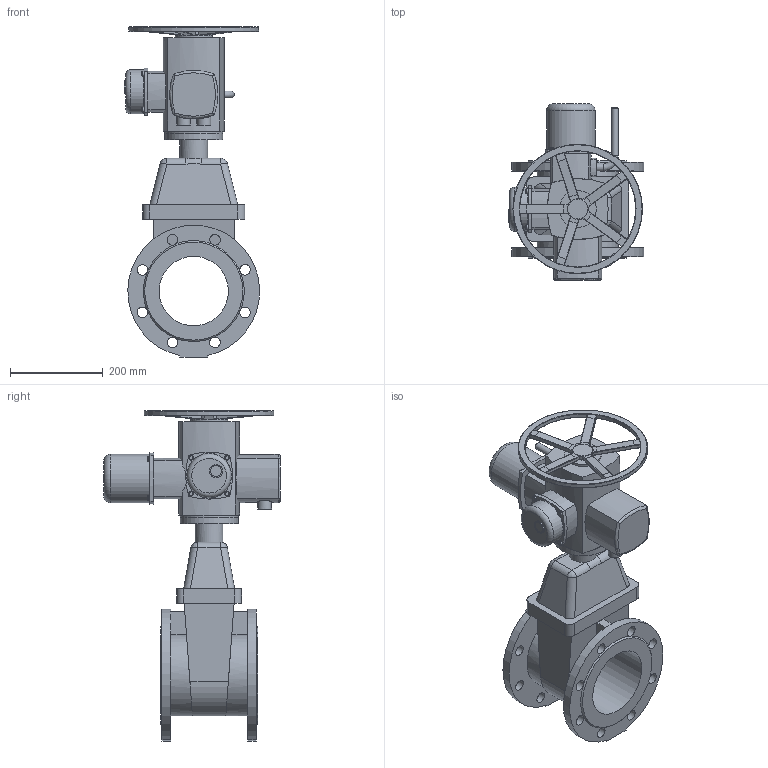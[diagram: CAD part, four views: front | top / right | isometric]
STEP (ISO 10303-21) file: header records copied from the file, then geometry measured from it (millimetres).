
FILE_DESCRIPTION(('STEP AP203'), '1');
FILE_NAME('青溻桄赅 47GVA DN150 PN10_PN16+MT903.Z10', '', ('UNSPECIFIED'), ('UNSPECIFIED'), 'ASCON STEP Converter 1.6', 'ASCON Math Kernel', '');
FILE_SCHEMA(('CONFIG_CONTROL_DESIGN'));
Length unit declared in the file: millimetre
Bounding box: 292.47 x 382 x 713.5 mm (x, y, z)
Volume: 13623809.2 mm3; surface area: 927118.1 mm2
Topology: 2 solids, 2 shells, 400 faces, 996 edges, 610 vertices
Faces by surface type: cylinder 193, plane 166, torus 25, bspline 9, cone 7
Full cylindrical faces by diameter (mm): 8.376 x4, 10 x8, 12 x4, 15 x2, 23 x16, 24 x2, 28 x2, 29.22 x1, 30 x1, 60 x1, 70 x2, 80 x1, 95 x1, 105 x1, 125 x2, 150 x1, 280 x1
Entity records: 20378 total; most frequent: CARTESIAN_POINT 8350, ORIENTED_EDGE 1812, DIRECTION 1737, EDGE_CURVE 906, AXIS2_PLACEMENT_3D 694, VERTEX_POINT 604, EDGE_LOOP 546, FACE_BOUND 413
